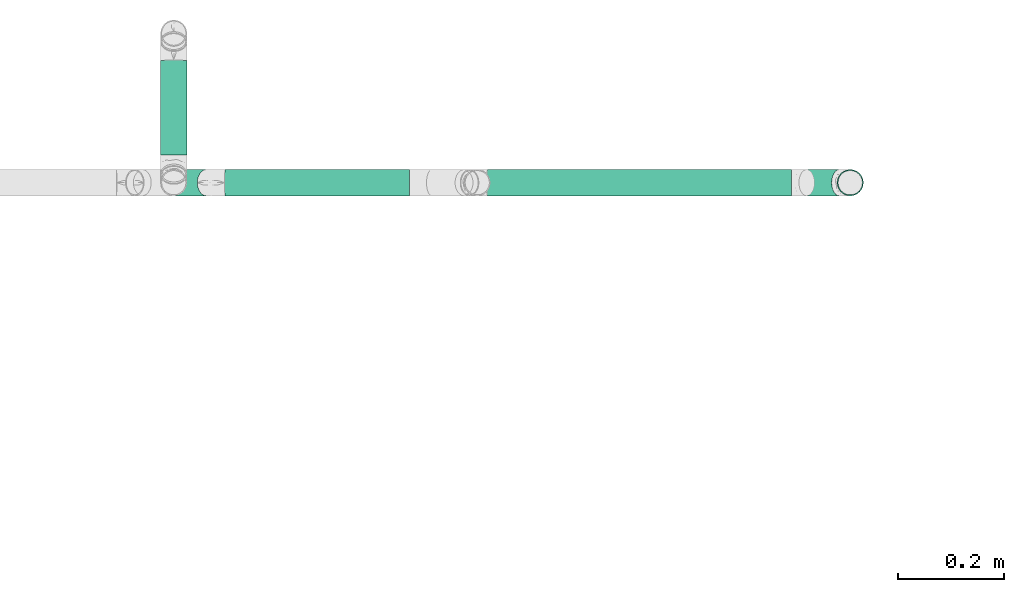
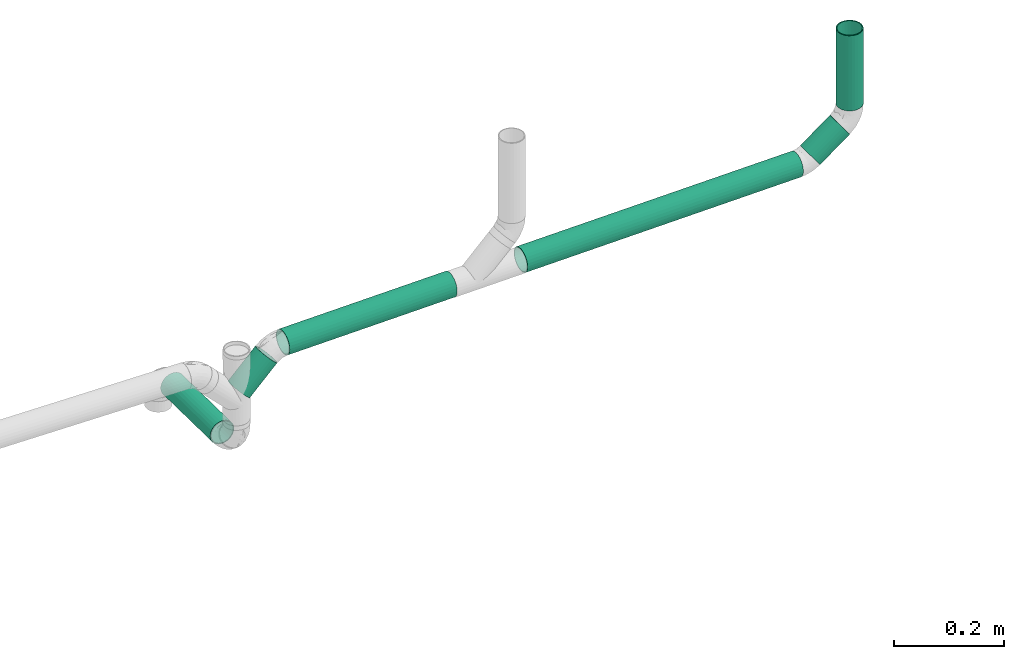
# One storey, part 2 of 13: 6 flow segments.
"""IFC2X3 building model written with IfcOpenShell, lengths in millimetres."""

from ifc_helpers import new_model, entity, si_unit, converted_unit, derived_unit, direction, frame, origin_with_axes, origin_2d_with_axis, place, context, subcontext, project, spatial, hollow_circle, extrude, source, transform, mapped, type_object, element, save


model = new_model("IFC2X3")

# Units and contexts
model_context = context("Model", 3, precision=0.01, world=frame((0.0, 4.29681676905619e-09, 0.0)), true_north=direction((4.01073788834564e-13, 1.0)))
plan_context = context("Plan", 3, precision=0.01, world=frame((0.0, 4.29681676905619e-09, 0.0)), true_north=direction((4.01073788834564e-13, 1.0)))
body_context = subcontext(model_context, "Body", "Model", "MODEL_VIEW")
ifc_project = project(units=[converted_unit("PLANEANGLEUNIT", "DEGREE", entity("IfcPositiveLengthMeasure", 0.0174532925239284), si_unit("PLANEANGLEUNIT", "RADIAN"), dimensions=[0, 0, 0, 0, 0, 0, 0]), si_unit("AREAUNIT", "SQUARE_METRE"), si_unit("LENGTHUNIT", "METRE", prefix="MILLI"), si_unit("MASSUNIT", "GRAM", prefix="KILO"), si_unit("POWERUNIT", "WATT"), si_unit("PRESSUREUNIT", "PASCAL", prefix="KILO"), si_unit("FORCEUNIT", "NEWTON", prefix="KILO"), si_unit("ELECTRICVOLTAGEUNIT", "VOLT"), si_unit("ELECTRICCURRENTUNIT", "AMPERE"), si_unit("THERMODYNAMICTEMPERATUREUNIT", "DEGREE_CELSIUS"), si_unit("TIMEUNIT", "SECOND"), si_unit("VOLUMEUNIT", "CUBIC_METRE"), derived_unit("LINEARVELOCITYUNIT", [(si_unit("LENGTHUNIT", "METRE"), 1), (si_unit("TIMEUNIT", "SECOND"), -1)]), derived_unit("VOLUMETRICFLOWRATEUNIT", [(si_unit("VOLUMEUNIT", "CUBIC_METRE"), 1), (si_unit("TIMEUNIT", "SECOND"), -1)]), derived_unit("THERMALTRANSMITTANCEUNIT", [(si_unit("POWERUNIT", "WATT"), 1), (si_unit("THERMODYNAMICTEMPERATUREUNIT", "KELVIN"), -1), (si_unit("AREAUNIT", "SQUARE_METRE"), -1)]), derived_unit("SOUNDPRESSUREUNIT", [(si_unit("PRESSUREUNIT", "PASCAL"), 1)])], contexts=[model_context, plan_context])

# Site, building, storey
site_placement = place(None, frame((0.0, -4.29681676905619e-09, 0.0), z_axis=(0.0, 0.0, 1.0), x_axis=(1.0, 0.0, 0.0)))
site = spatial("IfcSite", under=ifc_project, at=site_placement, Name="ENGM", CompositionType="ELEMENT")
building_placement = place(site_placement, frame((0.0, 4.29681676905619e-09, 0.0), z_axis=(0.0, 0.0, 1.0), x_axis=(1.0, 0.0, 0.0)))
building = spatial("IfcBuilding", under=site, at=building_placement, Name="TI", CompositionType="ELEMENT")
storey_placement = place(building_placement, frame((0.0, 0.0, 210900.0), z_axis=(0.0, 0.0, 1.0), x_axis=(1.0, 0.0, 0.0)))
storey = spatial("IfcBuildingStorey", under=building, at=storey_placement, Name="Nivå F", CompositionType="ELEMENT", Elevation=210900.0)

# Flow segments
pipe_segment_type = type_object("IfcPipeSegmentType", Name="PP avløpsrør", PredefinedType="RIGIDSEGMENT")
shared_shape_1 = source(origin_with_axes(), body_context, "Body", "SweptSolid", [
    extrude(hollow_circle(Radius=25.0, WallThickness=2.0, at=origin_2d_with_axis()), frame((0.0, 0.0, 0.0), z_axis=(1.0, 0.0, 0.0), x_axis=(0.0, 1.0, 0.0)), (0.0, 0.0, 1.0), 179.5),
])
flow_segment_1_placement = place(storey_placement, frame((588584.84459, 576262.40748, 94.0425699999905), z_axis=(-3.30872245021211e-24, 0.0166640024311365, 0.999861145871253), x_axis=(1.00000011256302e-06, -0.999861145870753, 0.0166640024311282)))
element("IfcFlowSegment", 1, at=flow_segment_1_placement, inside=storey, type_object=pipe_segment_type, Name="PP avløpsrør", context=body_context, shape_type="MappedRepresentation", body=[
    mapped(shared_shape_1, transform((0.0, 0.0, 0.0), scale=1.0)),
])
shared_shape_2 = source(origin_with_axes(), body_context, "Body", "SweptSolid", [
    extrude(hollow_circle(Radius=25.0, WallThickness=2.0, at=origin_2d_with_axis()), frame((0.0, 0.0, 0.0), z_axis=(1.0, 0.0, 0.0), x_axis=(0.0, 1.0, 0.0)), (0.0, 0.0, 1.0), 350.0),
])
flow_segment_2_placement = place(storey_placement, frame((588681.68611, 576030.74709, 293.655999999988), z_axis=(-0.0166640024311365, 0.0, 0.999861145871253), x_axis=(0.999861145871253, 0.0, 0.0166640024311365)))
element("IfcFlowSegment", 2, at=flow_segment_2_placement, inside=storey, type_object=pipe_segment_type, Name="PP avløpsrør", context=body_context, shape_type="MappedRepresentation", body=[
    mapped(shared_shape_2, transform((0.0, 0.0, 0.0), scale=1.0)),
])
shared_shape_3 = source(origin_with_axes(), body_context, "Body", "SweptSolid", [
    extrude(hollow_circle(Radius=25.0, WallThickness=2.0, at=origin_2d_with_axis()), frame((0.0, 0.0, 0.0), z_axis=(1.0, 0.0, 0.0), x_axis=(0.0, 1.0, 0.0)), (0.0, 0.0, 1.0), 576.5),
])
flow_segment_3_placement = place(storey_placement, frame((589178.81654, 576030.74709, 301.941499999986), z_axis=(-0.0166640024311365, 0.0, 0.999861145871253), x_axis=(0.999861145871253, 0.0, 0.0166640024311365)))
element("IfcFlowSegment", 3, at=flow_segment_3_placement, inside=storey, type_object=pipe_segment_type, Name="PP avløpsrør", context=body_context, shape_type="MappedRepresentation", body=[
    mapped(shared_shape_3, transform((0.0, 0.0, 0.0), scale=1.0)),
])
shared_shape_4 = source(origin_with_axes(), body_context, "Body", "SweptSolid", [
    extrude(hollow_circle(Radius=25.0, WallThickness=2.0, at=origin_2d_with_axis()), frame((0.0, 0.0, 0.0), z_axis=(1.0, 0.0, 0.0), x_axis=(0.0, 1.0, 0.0)), (0.0, 0.0, 1.0), 76.9),
])
flow_segment_4_placement = place(storey_placement, frame((589783.95467, 576030.74709, 321.242950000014), z_axis=(-0.592330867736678, 0.0, 0.805694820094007), x_axis=(0.805694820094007, 0.0, 0.592330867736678)))
element("IfcFlowSegment", 4, at=flow_segment_4_placement, inside=storey, type_object=pipe_segment_type, Name="PP avløpsrør", context=body_context, shape_type="MappedRepresentation", body=[
    mapped(shared_shape_4, transform((0.0, 0.0, 0.0), scale=1.0)),
])
shared_shape_5 = source(origin_with_axes(), body_context, "Body", "SweptSolid", [
    extrude(hollow_circle(Radius=25.0, WallThickness=2.0, at=origin_2d_with_axis()), frame((0.0, 0.0, 0.0), z_axis=(1.0, 0.0, 0.0), x_axis=(0.0, 1.0, 0.0)), (0.0, 0.0, 1.0), 166.1),
])
flow_segment_5_placement = place(storey_placement, frame((589866.28092, 576030.74709, 407.319809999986), z_axis=(0.0, 1.0, 0.0), x_axis=(0.0, 0.0, 1.0)))
element("IfcFlowSegment", 5, at=flow_segment_5_placement, inside=storey, type_object=pipe_segment_type, Name="PP avløpsrør", context=body_context, shape_type="MappedRepresentation", body=[
    mapped(shared_shape_5, transform((0.0, 0.0, 0.0), scale=1.0)),
])
shared_shape_6 = source(origin_with_axes(), body_context, "Body", "SweptSolid", [
    extrude(hollow_circle(Radius=25.0, WallThickness=2.0, at=origin_2d_with_axis()), frame((0.0, 0.0, 0.0), z_axis=(1.0, 0.0, 0.0), x_axis=(0.0, 1.0, 0.0)), (0.0, 0.0, 1.0), 81.0),
])
flow_segment_6_placement = place(storey_placement, frame((588647.16399, 576030.74709, 279.018279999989), z_axis=(-0.707106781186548, 0.0, 0.707106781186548), x_axis=(-0.707106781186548, 0.0, -0.707106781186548)))
element("IfcFlowSegment", 6, at=flow_segment_6_placement, inside=storey, type_object=pipe_segment_type, Name="PP avløpsrør", context=body_context, shape_type="MappedRepresentation", body=[
    mapped(shared_shape_6, transform((0.0, 0.0, 0.0), scale=1.0)),
])

save(model, "model.ifc")
